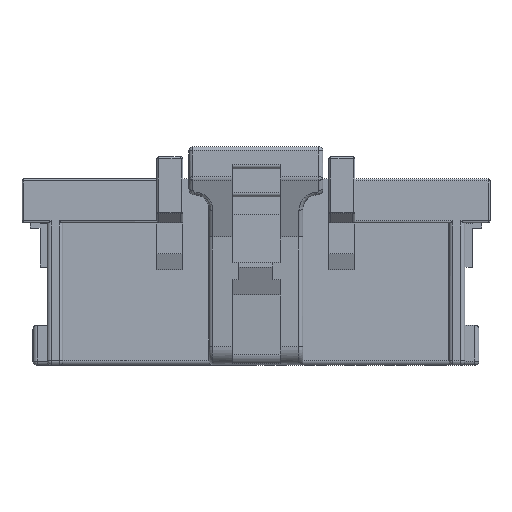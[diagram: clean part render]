
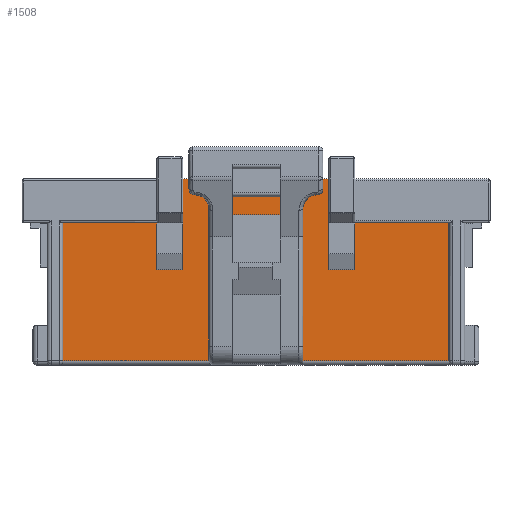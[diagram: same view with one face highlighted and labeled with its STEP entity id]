
A CAD part, top view. The second image highlights one B-rep face of the part: STEP entity #1508.
In plain terms, the highlighted planar face has unit normal (0, 0, 1).
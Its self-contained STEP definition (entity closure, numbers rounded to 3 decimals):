
#74 = DIRECTION ( 'NONE',  ( 0., -1., 0. ) ) ;
#100 = CARTESIAN_POINT ( 'NONE',  ( -11.7, 0., 1.825 ) ) ;
#320 = VECTOR ( 'NONE', #14341, 1000. ) ;
#372 = LINE ( 'NONE', #27467, #10414 ) ;
#1201 = VERTEX_POINT ( 'NONE', #26815 ) ;
#1508 = ADVANCED_FACE ( 'NONE', ( #16969 ), #40309, .T. ) ;
#2105 = CARTESIAN_POINT ( 'NONE',  ( -9.65, 0.2, 1.825 ) ) ;
#2189 = CARTESIAN_POINT ( 'NONE',  ( -3.65, 4.75, 1.825 ) ) ;
#2296 = ORIENTED_EDGE ( 'NONE', *, *, #19599, .T. ) ;
#2707 = ORIENTED_EDGE ( 'NONE', *, *, #17482, .T. ) ;
#2767 = VERTEX_POINT ( 'NONE', #24737 ) ;
#3020 = LINE ( 'NONE', #9677, #25737 ) ;
#3109 = LINE ( 'NONE', #43518, #8141 ) ;
#3115 = EDGE_CURVE ( 'NONE', #37476, #32462, #7159, .T. ) ;
#3690 = VECTOR ( 'NONE', #32708, 1000. ) ;
#4477 = CARTESIAN_POINT ( 'NONE',  ( 9.65, 7.1, 1.825 ) ) ;
#4697 = DIRECTION ( 'NONE',  ( -1., 0., 0. ) ) ;
#4893 = CARTESIAN_POINT ( 'NONE',  ( 9.65, 7.1, 1.825 ) ) ;
#5123 = CARTESIAN_POINT ( 'NONE',  ( -2.35, 0.2, 1.825 ) ) ;
#5484 = EDGE_CURVE ( 'NONE', #37476, #31824, #13815, .T. ) ;
#5702 = DIRECTION ( 'NONE',  ( -1., 0., 0. ) ) ;
#6286 = VERTEX_POINT ( 'NONE', #15414 ) ;
#6289 = CARTESIAN_POINT ( 'NONE',  ( -2.35, 0.2, 1.825 ) ) ;
#6877 = DIRECTION ( 'NONE',  ( 0., 1., 0. ) ) ;
#7159 = LINE ( 'NONE', #4477, #16417 ) ;
#7331 = ORIENTED_EDGE ( 'NONE', *, *, #24432, .T. ) ;
#8141 = VECTOR ( 'NONE', #6877, 1000. ) ;
#8556 = DIRECTION ( 'NONE',  ( 0., 1., 0. ) ) ;
#8848 = CARTESIAN_POINT ( 'NONE',  ( 2.35, 0.2, 1.825 ) ) ;
#9119 = EDGE_CURVE ( 'NONE', #38565, #13116, #11819, .T. ) ;
#9677 = CARTESIAN_POINT ( 'NONE',  ( 9.65, 0.2, 1.825 ) ) ;
#9815 = VERTEX_POINT ( 'NONE', #11880 ) ;
#10122 = LINE ( 'NONE', #37221, #21306 ) ;
#10245 = ORIENTED_EDGE ( 'NONE', *, *, #43313, .T. ) ;
#10306 = CARTESIAN_POINT ( 'NONE',  ( 4.95, 7.1, 1.825 ) ) ;
#10414 = VECTOR ( 'NONE', #14125, 1000. ) ;
#10548 = VECTOR ( 'NONE', #12240, 1000. ) ;
#10800 = CARTESIAN_POINT ( 'NONE',  ( -3.65, 4.75, 1.825 ) ) ;
#11480 = EDGE_CURVE ( 'NONE', #2767, #1201, #23554, .T. ) ;
#11819 = LINE ( 'NONE', #42470, #14051 ) ;
#11880 = CARTESIAN_POINT ( 'NONE',  ( -3.65, 4.75, 1.825 ) ) ;
#12240 = DIRECTION ( 'NONE',  ( 0., -1., 0. ) ) ;
#12506 = ORIENTED_EDGE ( 'NONE', *, *, #39097, .F. ) ;
#12564 = EDGE_LOOP ( 'NONE', ( #21104, #38085, #10245, #21796, #20731, #40209, #21724, #2707, #12506, #12866, #13930, #15748, #2296, #7331, #36688, #18830 ) ) ;
#12777 = VERTEX_POINT ( 'NONE', #25980 ) ;
#12866 = ORIENTED_EDGE ( 'NONE', *, *, #9119, .F. ) ;
#13116 = VERTEX_POINT ( 'NONE', #23941 ) ;
#13815 = LINE ( 'NONE', #23390, #29283 ) ;
#13930 = ORIENTED_EDGE ( 'NONE', *, *, #23220, .F. ) ;
#13944 = DIRECTION ( 'NONE',  ( -1., 0., 0. ) ) ;
#14051 = VECTOR ( 'NONE', #39353, 1000. ) ;
#14125 = DIRECTION ( 'NONE',  ( 0., -1., 0. ) ) ;
#14341 = DIRECTION ( 'NONE',  ( 0., 1., 0. ) ) ;
#14824 = LINE ( 'NONE', #24603, #15390 ) ;
#14977 = CARTESIAN_POINT ( 'NONE',  ( 3.65, 4.75, 1.825 ) ) ;
#15390 = VECTOR ( 'NONE', #13944, 1000. ) ;
#15414 = CARTESIAN_POINT ( 'NONE',  ( -9.65, 7.1, 1.825 ) ) ;
#15748 = ORIENTED_EDGE ( 'NONE', *, *, #38492, .T. ) ;
#15875 = CARTESIAN_POINT ( 'NONE',  ( -9.65, 0.2, 1.825 ) ) ;
#16004 = CARTESIAN_POINT ( 'NONE',  ( 3.65, 9.3, 1.825 ) ) ;
#16417 = VECTOR ( 'NONE', #4697, 1000. ) ;
#16969 = FACE_OUTER_BOUND ( 'NONE', #12564, .T. ) ;
#17482 = EDGE_CURVE ( 'NONE', #24035, #27919, #14824, .T. ) ;
#18830 = ORIENTED_EDGE ( 'NONE', *, *, #26085, .F. ) ;
#18887 = CARTESIAN_POINT ( 'NONE',  ( -4.95, 4.75, 1.825 ) ) ;
#18969 = AXIS2_PLACEMENT_3D ( 'NONE', #100, #23207, #37401 ) ;
#19413 = LINE ( 'NONE', #2105, #28373 ) ;
#19599 = EDGE_CURVE ( 'NONE', #29700, #12777, #35771, .T. ) ;
#20731 = ORIENTED_EDGE ( 'NONE', *, *, #5484, .F. ) ;
#21104 = ORIENTED_EDGE ( 'NONE', *, *, #30125, .T. ) ;
#21306 = VECTOR ( 'NONE', #23664, 1000. ) ;
#21532 = LINE ( 'NONE', #25308, #30686 ) ;
#21724 = ORIENTED_EDGE ( 'NONE', *, *, #27221, .T. ) ;
#21796 = ORIENTED_EDGE ( 'NONE', *, *, #35316, .F. ) ;
#21929 = VECTOR ( 'NONE', #32212, 1000. ) ;
#21952 = CARTESIAN_POINT ( 'NONE',  ( 9.65, 0.2, 1.825 ) ) ;
#23207 = DIRECTION ( 'NONE',  ( 0., 0., 1. ) ) ;
#23220 = EDGE_CURVE ( 'NONE', #9815, #38565, #41228, .T. ) ;
#23390 = CARTESIAN_POINT ( 'NONE',  ( 9.65, 7.1, 1.825 ) ) ;
#23554 = LINE ( 'NONE', #26681, #32981 ) ;
#23664 = DIRECTION ( 'NONE',  ( -1., 0., 0. ) ) ;
#23787 = CARTESIAN_POINT ( 'NONE',  ( -4.95, 4.75, 1.825 ) ) ;
#23941 = CARTESIAN_POINT ( 'NONE',  ( 3.65, 9.3, 1.825 ) ) ;
#24035 = VERTEX_POINT ( 'NONE', #29029 ) ;
#24432 = EDGE_CURVE ( 'NONE', #12777, #6286, #10122, .T. ) ;
#24603 = CARTESIAN_POINT ( 'NONE',  ( 4.95, 4.75, 1.825 ) ) ;
#24737 = CARTESIAN_POINT ( 'NONE',  ( 2.35, 1.3, 1.825 ) ) ;
#25308 = CARTESIAN_POINT ( 'NONE',  ( 4.95, 7.1, 1.825 ) ) ;
#25430 = VECTOR ( 'NONE', #42828, 1000. ) ;
#25737 = VECTOR ( 'NONE', #5702, 1000. ) ;
#25980 = CARTESIAN_POINT ( 'NONE',  ( -4.95, 7.1, 1.825 ) ) ;
#26085 = EDGE_CURVE ( 'NONE', #31300, #32294, #29811, .T. ) ;
#26242 = LINE ( 'NONE', #16004, #10548 ) ;
#26681 = CARTESIAN_POINT ( 'NONE',  ( 2.35, 1.3, 1.825 ) ) ;
#26815 = CARTESIAN_POINT ( 'NONE',  ( -2.35, 1.3, 1.825 ) ) ;
#27221 = EDGE_CURVE ( 'NONE', #32462, #24035, #21532, .T. ) ;
#27467 = CARTESIAN_POINT ( 'NONE',  ( 2.35, 1.3, 1.825 ) ) ;
#27919 = VERTEX_POINT ( 'NONE', #14977 ) ;
#28373 = VECTOR ( 'NONE', #8556, 1000. ) ;
#28638 = DIRECTION ( 'NONE',  ( 0., -1., 0. ) ) ;
#29029 = CARTESIAN_POINT ( 'NONE',  ( 4.95, 4.75, 1.825 ) ) ;
#29283 = VECTOR ( 'NONE', #74, 1000. ) ;
#29700 = VERTEX_POINT ( 'NONE', #23787 ) ;
#29811 = LINE ( 'NONE', #6289, #3690 ) ;
#30125 = EDGE_CURVE ( 'NONE', #31300, #1201, #3109, .T. ) ;
#30686 = VECTOR ( 'NONE', #28638, 1000. ) ;
#31300 = VERTEX_POINT ( 'NONE', #5123 ) ;
#31824 = VERTEX_POINT ( 'NONE', #21952 ) ;
#32212 = DIRECTION ( 'NONE',  ( 0., 1., 0. ) ) ;
#32294 = VERTEX_POINT ( 'NONE', #15875 ) ;
#32462 = VERTEX_POINT ( 'NONE', #10306 ) ;
#32622 = LINE ( 'NONE', #2189, #25430 ) ;
#32708 = DIRECTION ( 'NONE',  ( -1., 0., 0. ) ) ;
#32981 = VECTOR ( 'NONE', #36896, 1000. ) ;
#35316 = EDGE_CURVE ( 'NONE', #31824, #42024, #3020, .T. ) ;
#35771 = LINE ( 'NONE', #18887, #21929 ) ;
#36688 = ORIENTED_EDGE ( 'NONE', *, *, #40173, .F. ) ;
#36896 = DIRECTION ( 'NONE',  ( -1., 0., 0. ) ) ;
#37221 = CARTESIAN_POINT ( 'NONE',  ( -4.95, 7.1, 1.825 ) ) ;
#37401 = DIRECTION ( 'NONE',  ( 1., 0., 0. ) ) ;
#37476 = VERTEX_POINT ( 'NONE', #4893 ) ;
#38085 = ORIENTED_EDGE ( 'NONE', *, *, #11480, .F. ) ;
#38492 = EDGE_CURVE ( 'NONE', #9815, #29700, #32622, .T. ) ;
#38565 = VERTEX_POINT ( 'NONE', #40801 ) ;
#39097 = EDGE_CURVE ( 'NONE', #13116, #27919, #26242, .T. ) ;
#39353 = DIRECTION ( 'NONE',  ( 1., 0., 0. ) ) ;
#40173 = EDGE_CURVE ( 'NONE', #32294, #6286, #19413, .T. ) ;
#40209 = ORIENTED_EDGE ( 'NONE', *, *, #3115, .T. ) ;
#40309 = PLANE ( 'NONE',  #18969 ) ;
#40801 = CARTESIAN_POINT ( 'NONE',  ( -3.65, 9.3, 1.825 ) ) ;
#41228 = LINE ( 'NONE', #10800, #320 ) ;
#42024 = VERTEX_POINT ( 'NONE', #8848 ) ;
#42470 = CARTESIAN_POINT ( 'NONE',  ( -3.65, 9.3, 1.825 ) ) ;
#42828 = DIRECTION ( 'NONE',  ( -1., 0., 0. ) ) ;
#43313 = EDGE_CURVE ( 'NONE', #2767, #42024, #372, .T. ) ;
#43518 = CARTESIAN_POINT ( 'NONE',  ( -2.35, 0.2, 1.825 ) ) ;
